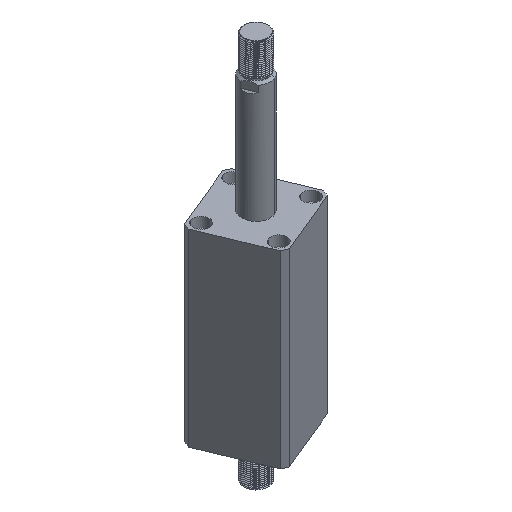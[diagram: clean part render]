
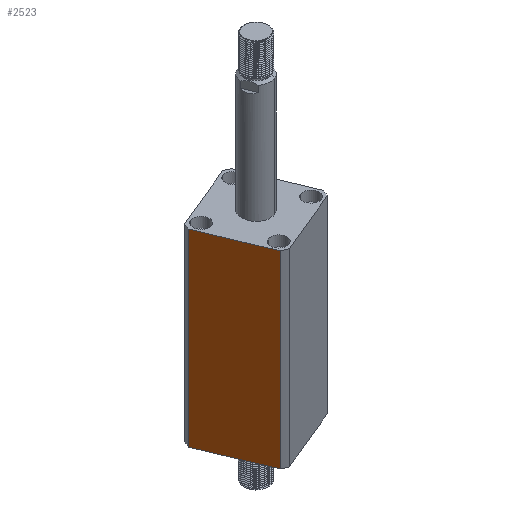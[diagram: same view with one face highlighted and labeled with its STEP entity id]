
A CAD part, isometric view. The second image highlights one B-rep face of the part: STEP entity #2523.
In plain terms, the highlighted planar face has unit normal (-0.924, -0.383, 0) as drawn and (0, -1, 0) by its records, which use the part's own axes.
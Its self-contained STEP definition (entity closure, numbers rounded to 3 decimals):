
#228 = CARTESIAN_POINT ( 'NONE',  ( -30.615, -35., -135. ) ) ;
#458 = DIRECTION ( 'NONE',  ( 1., 0., 0. ) ) ;
#677 = PLANE ( 'NONE',  #16385 ) ;
#1420 = LINE ( 'NONE', #10387, #15421 ) ;
#1831 = ORIENTED_EDGE ( 'NONE', *, *, #13905, .F. ) ;
#2352 = VECTOR ( 'NONE', #7563, 1000. ) ;
#2523 = ADVANCED_FACE ( 'NONE', ( #14213 ), #677, .F. ) ;
#4874 = CARTESIAN_POINT ( 'NONE',  ( -35., -35., 165. ) ) ;
#5837 = CARTESIAN_POINT ( 'NONE',  ( 30.615, -35., 165. ) ) ;
#6986 = ORIENTED_EDGE ( 'NONE', *, *, #17050, .F. ) ;
#7563 = DIRECTION ( 'NONE',  ( 1., 0., 0. ) ) ;
#7628 = DIRECTION ( 'NONE',  ( 0., 1., 0. ) ) ;
#8254 = ORIENTED_EDGE ( 'NONE', *, *, #17288, .T. ) ;
#8709 = EDGE_CURVE ( 'NONE', #11785, #16429, #13175, .T. ) ;
#8762 = EDGE_LOOP ( 'NONE', ( #6986, #8254, #1831, #13081 ) ) ;
#9767 = DIRECTION ( 'NONE',  ( 0., 0., 1. ) ) ;
#10387 = CARTESIAN_POINT ( 'NONE',  ( 30.615, -35., -135. ) ) ;
#10444 = DIRECTION ( 'NONE',  ( 0., 0., -1. ) ) ;
#11257 = CARTESIAN_POINT ( 'NONE',  ( -35., -35., 165. ) ) ;
#11785 = VERTEX_POINT ( 'NONE', #14906 ) ;
#11917 = VERTEX_POINT ( 'NONE', #16479 ) ;
#12423 = VERTEX_POINT ( 'NONE', #15005 ) ;
#13081 = ORIENTED_EDGE ( 'NONE', *, *, #8709, .F. ) ;
#13175 = LINE ( 'NONE', #11257, #2352 ) ;
#13453 = VECTOR ( 'NONE', #9767, 1000. ) ;
#13905 = EDGE_CURVE ( 'NONE', #16429, #12423, #1420, .T. ) ;
#14213 = FACE_OUTER_BOUND ( 'NONE', #8762, .T. ) ;
#14906 = CARTESIAN_POINT ( 'NONE',  ( -30.615, -35., 165. ) ) ;
#15005 = CARTESIAN_POINT ( 'NONE',  ( 30.615, -35., 0. ) ) ;
#15367 = VECTOR ( 'NONE', #458, 1000. ) ;
#15421 = VECTOR ( 'NONE', #10444, 1000. ) ;
#15429 = CARTESIAN_POINT ( 'NONE',  ( -35., -35., 0. ) ) ;
#15794 = LINE ( 'NONE', #15429, #15367 ) ;
#16385 = AXIS2_PLACEMENT_3D ( 'NONE', #4874, #7628, #17043 ) ;
#16429 = VERTEX_POINT ( 'NONE', #5837 ) ;
#16479 = CARTESIAN_POINT ( 'NONE',  ( -30.615, -35., 0. ) ) ;
#17043 = DIRECTION ( 'NONE',  ( 0., 0., 1. ) ) ;
#17047 = LINE ( 'NONE', #228, #13453 ) ;
#17050 = EDGE_CURVE ( 'NONE', #11917, #11785, #17047, .T. ) ;
#17288 = EDGE_CURVE ( 'NONE', #11917, #12423, #15794, .T. ) ;
